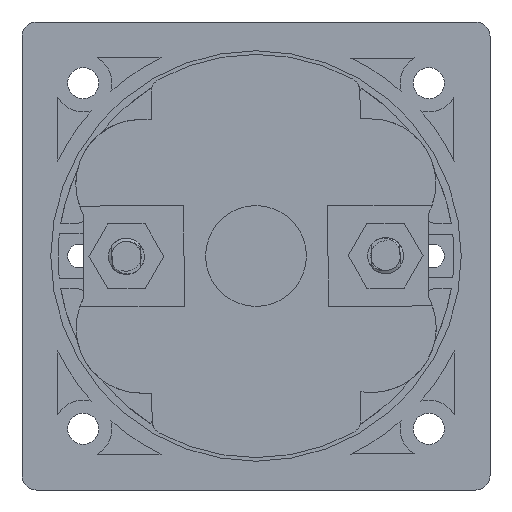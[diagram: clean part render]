
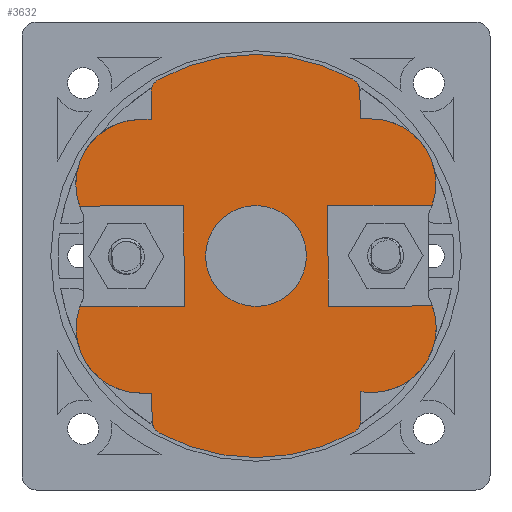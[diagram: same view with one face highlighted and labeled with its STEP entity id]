
A CAD part, front view. The second image highlights one B-rep face of the part: STEP entity #3632.
In plain terms, the highlighted planar face has unit normal (0, -1, 0).
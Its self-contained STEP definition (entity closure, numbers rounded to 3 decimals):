
#651=LINE('',#53237,#1988);
#656=LINE('',#53248,#1993);
#658=LINE('',#53252,#1995);
#662=LINE('',#53264,#1999);
#667=LINE('',#53275,#2004);
#669=LINE('',#53279,#2006);
#674=LINE('',#53314,#2011);
#694=LINE('',#53358,#2031);
#716=LINE('',#53418,#2053);
#718=LINE('',#53432,#2055);
#724=LINE('',#53451,#2061);
#743=LINE('',#53489,#2080);
#765=LINE('',#53549,#2102);
#768=LINE('',#53555,#2105);
#1988=VECTOR('',#20544,1.);
#1993=VECTOR('',#20551,1.);
#1995=VECTOR('',#20555,1.);
#1999=VECTOR('',#20567,1.);
#2004=VECTOR('',#20574,1.);
#2006=VECTOR('',#20578,1.);
#2011=VECTOR('',#20591,1.);
#2031=VECTOR('',#20619,1.);
#2053=VECTOR('',#20665,1.);
#2055=VECTOR('',#20669,1.);
#2061=VECTOR('',#20689,1.);
#2080=VECTOR('',#20710,1.);
#2102=VECTOR('',#20756,1.);
#2105=VECTOR('',#20761,1.);
#3204=FACE_BOUND('',#6121,.T.);
#3205=FACE_BOUND('',#6122,.T.);
#3632=ADVANCED_FACE('',(#3204,#3205),#4541,.F.);
#4541=PLANE('',#18739);
#6121=EDGE_LOOP('',(#8736,#8737,#8738,#8739,#8740,#8741,#8742,#8743,#8744,
#8745,#8746,#8747,#8748,#8749,#8750,#8751,#8752,#8753,#8754,#8755,#8756,
#8757,#8758,#8759,#8760));
#6122=EDGE_LOOP('',(#8761));
#7167=CIRCLE('',#18680,7.);
#7173=CIRCLE('',#18696,8.96);
#7176=CIRCLE('',#18701,2.);
#7178=CIRCLE('',#18704,28.);
#7181=CIRCLE('',#18708,2.);
#7182=CIRCLE('',#18712,9.);
#7184=CIRCLE('',#18715,9.);
#7188=CIRCLE('',#18722,2.);
#7190=CIRCLE('',#18725,28.);
#7193=CIRCLE('',#18729,2.);
#7194=CIRCLE('',#18733,9.);
#7196=CIRCLE('',#18736,9.);
#8736=ORIENTED_EDGE('',*,*,#15615,.F.);
#8737=ORIENTED_EDGE('',*,*,#15696,.T.);
#8738=ORIENTED_EDGE('',*,*,#15695,.T.);
#8739=ORIENTED_EDGE('',*,*,#15691,.T.);
#8740=ORIENTED_EDGE('',*,*,#15672,.T.);
#8741=ORIENTED_EDGE('',*,*,#15668,.T.);
#8742=ORIENTED_EDGE('',*,*,#15665,.T.);
#8743=ORIENTED_EDGE('',*,*,#15661,.T.);
#8744=ORIENTED_EDGE('',*,*,#15642,.T.);
#8745=ORIENTED_EDGE('',*,*,#15639,.T.);
#8746=ORIENTED_EDGE('',*,*,#15761,.T.);
#8747=ORIENTED_EDGE('',*,*,#15626,.F.);
#8748=ORIENTED_EDGE('',*,*,#15621,.F.);
#8749=ORIENTED_EDGE('',*,*,#15628,.F.);
#8750=ORIENTED_EDGE('',*,*,#15758,.T.);
#8751=ORIENTED_EDGE('',*,*,#15757,.T.);
#8752=ORIENTED_EDGE('',*,*,#15754,.T.);
#8753=ORIENTED_EDGE('',*,*,#15735,.T.);
#8754=ORIENTED_EDGE('',*,*,#15731,.T.);
#8755=ORIENTED_EDGE('',*,*,#15728,.T.);
#8756=ORIENTED_EDGE('',*,*,#15724,.T.);
#8757=ORIENTED_EDGE('',*,*,#15705,.T.);
#8758=ORIENTED_EDGE('',*,*,#15699,.T.);
#8759=ORIENTED_EDGE('',*,*,#15613,.F.);
#8760=ORIENTED_EDGE('',*,*,#15608,.F.);
#8761=ORIENTED_EDGE('',*,*,#15607,.F.);
#13638=VERTEX_POINT('',#53235);
#13639=VERTEX_POINT('',#53238);
#13640=VERTEX_POINT('',#53239);
#13644=VERTEX_POINT('',#53249);
#13645=VERTEX_POINT('',#53253);
#13649=VERTEX_POINT('',#53265);
#13650=VERTEX_POINT('',#53266);
#13654=VERTEX_POINT('',#53276);
#13655=VERTEX_POINT('',#53280);
#13659=VERTEX_POINT('',#53295);
#13664=VERTEX_POINT('',#53313);
#13665=VERTEX_POINT('',#53317);
#13667=VERTEX_POINT('',#53323);
#13685=VERTEX_POINT('',#53361);
#13688=VERTEX_POINT('',#53369);
#13690=VERTEX_POINT('',#53375);
#13693=VERTEX_POINT('',#53383);
#13711=VERTEX_POINT('',#53424);
#13715=VERTEX_POINT('',#53440);
#13718=VERTEX_POINT('',#53448);
#13720=VERTEX_POINT('',#53454);
#13738=VERTEX_POINT('',#53492);
#13741=VERTEX_POINT('',#53500);
#13743=VERTEX_POINT('',#53506);
#13746=VERTEX_POINT('',#53514);
#13764=VERTEX_POINT('',#53552);
#15607=EDGE_CURVE('',#13638,#13638,#7167,.T.);
#15608=EDGE_CURVE('',#13639,#13640,#651,.T.);
#15613=EDGE_CURVE('',#13640,#13644,#656,.T.);
#15615=EDGE_CURVE('',#13645,#13639,#658,.T.);
#15621=EDGE_CURVE('',#13649,#13650,#662,.T.);
#15626=EDGE_CURVE('',#13650,#13654,#667,.T.);
#15628=EDGE_CURVE('',#13655,#13649,#669,.T.);
#15639=EDGE_CURVE('',#13659,#13664,#674,.T.);
#15642=EDGE_CURVE('',#13665,#13659,#7173,.T.);
#15661=EDGE_CURVE('',#13667,#13665,#694,.T.);
#15665=EDGE_CURVE('',#13685,#13667,#7176,.T.);
#15668=EDGE_CURVE('',#13688,#13685,#7178,.T.);
#15672=EDGE_CURVE('',#13690,#13688,#7181,.T.);
#15691=EDGE_CURVE('',#13693,#13690,#716,.T.);
#15695=EDGE_CURVE('',#13711,#13693,#718,.T.);
#15696=EDGE_CURVE('',#13645,#13711,#7182,.T.);
#15699=EDGE_CURVE('',#13715,#13644,#7184,.T.);
#15705=EDGE_CURVE('',#13718,#13715,#724,.T.);
#15724=EDGE_CURVE('',#13720,#13718,#743,.T.);
#15728=EDGE_CURVE('',#13738,#13720,#7188,.T.);
#15731=EDGE_CURVE('',#13741,#13738,#7190,.T.);
#15735=EDGE_CURVE('',#13743,#13741,#7193,.T.);
#15754=EDGE_CURVE('',#13746,#13743,#765,.T.);
#15757=EDGE_CURVE('',#13764,#13746,#768,.T.);
#15758=EDGE_CURVE('',#13655,#13764,#7194,.T.);
#15761=EDGE_CURVE('',#13664,#13654,#7196,.T.);
#18680=AXIS2_PLACEMENT_3D('',#53234,#20540,#20541);
#18696=AXIS2_PLACEMENT_3D('',#53320,#20597,#20598);
#18701=AXIS2_PLACEMENT_3D('',#53366,#20627,#20628);
#18704=AXIS2_PLACEMENT_3D('',#53372,#20634,#20635);
#18708=AXIS2_PLACEMENT_3D('',#53380,#20643,#20644);
#18712=AXIS2_PLACEMENT_3D('',#53434,#20672,#20673);
#18715=AXIS2_PLACEMENT_3D('',#53439,#20679,#20680);
#18722=AXIS2_PLACEMENT_3D('',#53497,#20718,#20719);
#18725=AXIS2_PLACEMENT_3D('',#53503,#20725,#20726);
#18729=AXIS2_PLACEMENT_3D('',#53511,#20734,#20735);
#18733=AXIS2_PLACEMENT_3D('',#53557,#20764,#20765);
#18736=AXIS2_PLACEMENT_3D('',#53562,#20771,#20772);
#18739=AXIS2_PLACEMENT_3D('',#53567,#20778,#20779);
#20540=DIRECTION('',(0.,-1.,0.));
#20541=DIRECTION('',(-1.,0.,-0.003));
#20544=DIRECTION('',(-0.003,0.,1.));
#20551=DIRECTION('',(-1.,0.,-0.003));
#20555=DIRECTION('',(1.,0.,0.003));
#20567=DIRECTION('',(0.003,0.,-1.));
#20574=DIRECTION('',(1.,0.,0.003));
#20578=DIRECTION('',(-1.,0.,-0.003));
#20591=DIRECTION('',(1.,0.,0.003));
#20597=DIRECTION('',(0.,-1.,0.));
#20598=DIRECTION('',(0.,0.,-1.));
#20619=DIRECTION('',(-0.003,0.,1.));
#20627=DIRECTION('',(0.,-1.,0.));
#20628=DIRECTION('',(1.,0.,0.003));
#20634=DIRECTION('',(0.,-1.,0.));
#20635=DIRECTION('',(1.,0.,0.003));
#20643=DIRECTION('',(0.,-1.,0.));
#20644=DIRECTION('',(1.,0.,0.003));
#20665=DIRECTION('',(0.003,0.,-1.));
#20669=DIRECTION('',(1.,0.,0.003));
#20672=DIRECTION('',(0.,-1.,0.));
#20673=DIRECTION('',(-0.89,0.,0.456));
#20679=DIRECTION('',(0.,-1.,0.));
#20680=DIRECTION('',(-1.,0.,-0.003));
#20689=DIRECTION('',(-1.,0.,-0.003));
#20710=DIRECTION('',(0.003,0.,-1.));
#20718=DIRECTION('',(0.,-1.,0.));
#20719=DIRECTION('',(1.,0.,0.003));
#20725=DIRECTION('',(0.,-1.,0.));
#20726=DIRECTION('',(1.,0.,0.003));
#20734=DIRECTION('',(0.,-1.,0.));
#20735=DIRECTION('',(1.,0.,0.003));
#20756=DIRECTION('',(-0.003,0.,1.));
#20761=DIRECTION('',(-1.,0.,-0.003));
#20764=DIRECTION('',(0.,-1.,0.));
#20765=DIRECTION('',(1.,0.,0.003));
#20771=DIRECTION('',(0.,-1.,0.));
#20772=DIRECTION('',(0.,0.,-1.));
#20778=DIRECTION('',(0.,1.,0.));
#20779=DIRECTION('',(0.,0.,1.));
#53234=CARTESIAN_POINT('',(0.,-81.1,0.));
#53235=CARTESIAN_POINT('',(-7.,-81.1,-0.018));
#53237=CARTESIAN_POINT('',(-9.982,-81.1,-7.026));
#53238=CARTESIAN_POINT('',(-9.982,-81.1,-7.026));
#53239=CARTESIAN_POINT('',(-10.018,-81.1,6.974));
#53248=CARTESIAN_POINT('',(-10.018,-81.1,6.974));
#53249=CARTESIAN_POINT('',(-24.503,-81.1,6.937));
#53252=CARTESIAN_POINT('',(-34.164,-81.1,-7.088));
#53253=CARTESIAN_POINT('',(-24.468,-81.1,-7.063));
#53264=CARTESIAN_POINT('',(9.982,-81.1,7.026));
#53265=CARTESIAN_POINT('',(9.982,-81.1,7.026));
#53266=CARTESIAN_POINT('',(10.018,-81.1,-6.974));
#53275=CARTESIAN_POINT('',(10.018,-81.1,-6.974));
#53276=CARTESIAN_POINT('',(24.503,-81.1,-6.937));
#53279=CARTESIAN_POINT('',(34.164,-81.1,7.088));
#53280=CARTESIAN_POINT('',(24.467,-81.1,7.063));
#53295=CARTESIAN_POINT('',(15.978,-81.1,-18.959));
#53313=CARTESIAN_POINT('',(16.119,-81.1,-18.958));
#53314=CARTESIAN_POINT('',(23.752,-81.1,-18.938));
#53317=CARTESIAN_POINT('',(14.548,-81.1,-18.837));
#53320=CARTESIAN_POINT('',(16.02,-81.1,-9.999));
#53323=CARTESIAN_POINT('',(14.558,-81.1,-22.761));
#53358=CARTESIAN_POINT('',(14.558,-81.1,-22.761));
#53361=CARTESIAN_POINT('',(13.525,-81.1,-24.517));
#53366=CARTESIAN_POINT('',(12.558,-81.1,-22.766));
#53369=CARTESIAN_POINT('',(-13.398,-81.1,-24.586));
#53372=CARTESIAN_POINT('',(0.,-81.1,0.));
#53375=CARTESIAN_POINT('',(-14.441,-81.1,-22.835));
#53380=CARTESIAN_POINT('',(-12.441,-81.1,-22.83));
#53383=CARTESIAN_POINT('',(-14.451,-81.1,-19.037));
#53418=CARTESIAN_POINT('',(-14.451,-81.1,-19.037));
#53424=CARTESIAN_POINT('',(-15.951,-81.1,-19.041));
#53432=CARTESIAN_POINT('',(23.753,-81.1,-18.934));
#53434=CARTESIAN_POINT('',(-15.974,-81.1,-10.041));
#53439=CARTESIAN_POINT('',(-16.026,-81.1,9.959));
#53440=CARTESIAN_POINT('',(-16.049,-81.1,18.959));
#53448=CARTESIAN_POINT('',(-14.549,-81.1,18.963));
#53451=CARTESIAN_POINT('',(-14.549,-81.1,18.963));
#53454=CARTESIAN_POINT('',(-14.558,-81.1,22.761));
#53489=CARTESIAN_POINT('',(-14.558,-81.1,22.761));
#53492=CARTESIAN_POINT('',(-13.525,-81.1,24.517));
#53497=CARTESIAN_POINT('',(-12.558,-81.1,22.766));
#53500=CARTESIAN_POINT('',(13.398,-81.1,24.586));
#53503=CARTESIAN_POINT('',(0.,-81.1,0.));
#53506=CARTESIAN_POINT('',(14.441,-81.1,22.835));
#53511=CARTESIAN_POINT('',(12.441,-81.1,22.83));
#53514=CARTESIAN_POINT('',(14.451,-81.1,19.037));
#53549=CARTESIAN_POINT('',(14.451,-81.1,19.037));
#53552=CARTESIAN_POINT('',(15.951,-81.1,19.041));
#53555=CARTESIAN_POINT('',(15.951,-81.1,19.041));
#53557=CARTESIAN_POINT('',(15.974,-81.1,10.041));
#53562=CARTESIAN_POINT('',(16.026,-81.1,-9.959));
#53567=CARTESIAN_POINT('',(23.741,-81.1,-14.593));
